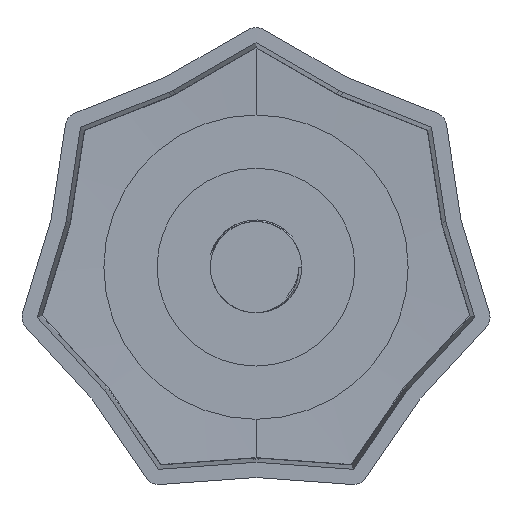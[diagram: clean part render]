
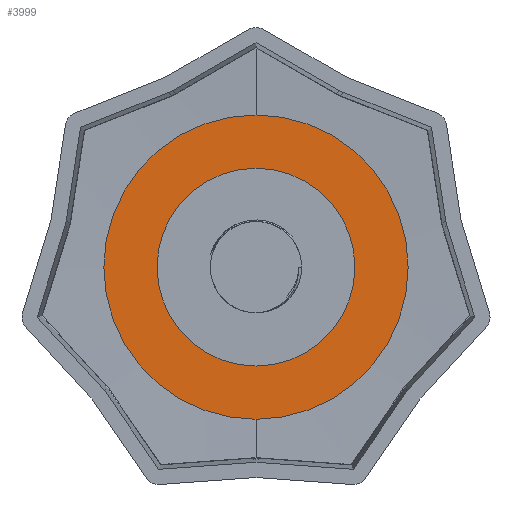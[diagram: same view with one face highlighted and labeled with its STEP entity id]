
A CAD part, front view. The second image highlights one B-rep face of the part: STEP entity #3999.
In plain terms, the highlighted planar face has unit normal (0, -1, 0).
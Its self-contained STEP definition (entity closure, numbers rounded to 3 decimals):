
#41 = DIRECTION ( 'NONE',  ( 0., 1., 0. ) ) ;
#349 = EDGE_CURVE ( 'NONE', #3370, #5521, #7453, .T. ) ;
#353 = DIRECTION ( 'NONE',  ( 0., 0., 1. ) ) ;
#404 = FACE_OUTER_BOUND ( 'NONE', #4873, .T. ) ;
#513 = EDGE_CURVE ( 'NONE', #8378, #6830, #5262, .T. ) ;
#560 = AXIS2_PLACEMENT_3D ( 'NONE', #2259, #2920, #7605 ) ;
#728 = CARTESIAN_POINT ( 'NONE',  ( 0., -2., 0. ) ) ;
#921 = PLANE ( 'NONE',  #560 ) ;
#932 = CARTESIAN_POINT ( 'NONE',  ( 0., -2., -20. ) ) ;
#1111 = EDGE_LOOP ( 'NONE', ( #7267, #4192 ) ) ;
#1274 = AXIS2_PLACEMENT_3D ( 'NONE', #728, #41, #353 ) ;
#1507 = CARTESIAN_POINT ( 'NONE',  ( 0., -2., 0. ) ) ;
#2164 = CARTESIAN_POINT ( 'NONE',  ( 0., -2., 0. ) ) ;
#2173 = DIRECTION ( 'NONE',  ( 0., 0., 1. ) ) ;
#2259 = CARTESIAN_POINT ( 'NONE',  ( 0., -2., 0. ) ) ;
#2604 = CIRCLE ( 'NONE', #5208, 20. ) ;
#2822 = ORIENTED_EDGE ( 'NONE', *, *, #349, .F. ) ;
#2833 = DIRECTION ( 'NONE',  ( 0., 0., 1. ) ) ;
#2920 = DIRECTION ( 'NONE',  ( 0., 1., 0. ) ) ;
#3370 = VERTEX_POINT ( 'NONE', #932 ) ;
#3565 = DIRECTION ( 'NONE',  ( 0., -1., 0. ) ) ;
#3901 = EDGE_CURVE ( 'NONE', #5521, #3370, #2604, .T. ) ;
#3999 = ADVANCED_FACE ( 'NONE', ( #404, #7311 ), #921, .F. ) ;
#4192 = ORIENTED_EDGE ( 'NONE', *, *, #8171, .F. ) ;
#4615 = CARTESIAN_POINT ( 'NONE',  ( 0., -2., -13. ) ) ;
#4851 = AXIS2_PLACEMENT_3D ( 'NONE', #7562, #3565, #8207 ) ;
#4873 = EDGE_LOOP ( 'NONE', ( #2822, #5574 ) ) ;
#5139 = AXIS2_PLACEMENT_3D ( 'NONE', #1507, #6179, #2173 ) ;
#5208 = AXIS2_PLACEMENT_3D ( 'NONE', #2164, #6837, #2833 ) ;
#5262 = CIRCLE ( 'NONE', #4851, 13. ) ;
#5521 = VERTEX_POINT ( 'NONE', #5765 ) ;
#5574 = ORIENTED_EDGE ( 'NONE', *, *, #3901, .F. ) ;
#5633 = CARTESIAN_POINT ( 'NONE',  ( 0., -2., 13. ) ) ;
#5765 = CARTESIAN_POINT ( 'NONE',  ( 0., -2., 20. ) ) ;
#6179 = DIRECTION ( 'NONE',  ( 0., -1., 0. ) ) ;
#6830 = VERTEX_POINT ( 'NONE', #4615 ) ;
#6837 = DIRECTION ( 'NONE',  ( 0., 1., 0. ) ) ;
#7267 = ORIENTED_EDGE ( 'NONE', *, *, #513, .F. ) ;
#7311 = FACE_BOUND ( 'NONE', #1111, .T. ) ;
#7453 = CIRCLE ( 'NONE', #1274, 20. ) ;
#7562 = CARTESIAN_POINT ( 'NONE',  ( 0., -2., 0. ) ) ;
#7605 = DIRECTION ( 'NONE',  ( 0., 0., 1. ) ) ;
#8044 = CIRCLE ( 'NONE', #5139, 13. ) ;
#8171 = EDGE_CURVE ( 'NONE', #6830, #8378, #8044, .T. ) ;
#8207 = DIRECTION ( 'NONE',  ( 0., 0., 1. ) ) ;
#8378 = VERTEX_POINT ( 'NONE', #5633 ) ;
